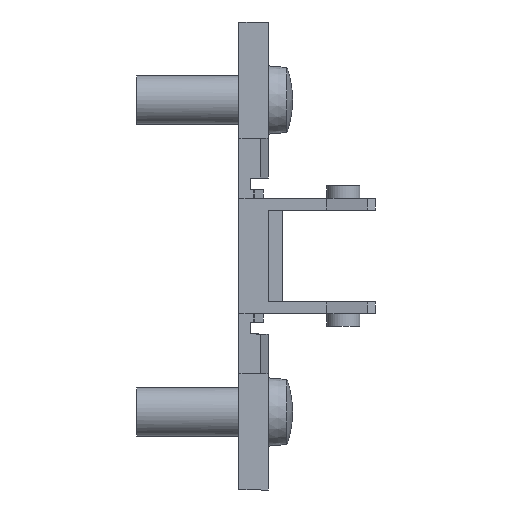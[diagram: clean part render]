
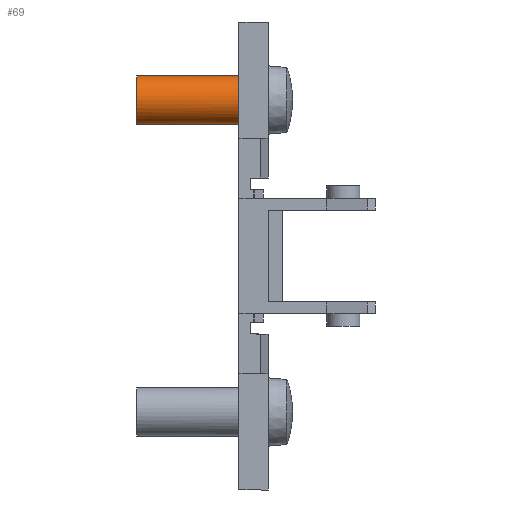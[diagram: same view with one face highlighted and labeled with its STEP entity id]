
A CAD part, front view. The second image highlights one B-rep face of the part: STEP entity #69.
In plain terms, the highlighted cylindrical face has radius 2.5 mm (diameter 5 mm), a partial arc.
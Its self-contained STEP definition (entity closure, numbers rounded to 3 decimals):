
#3 = CARTESIAN_POINT ( 'NONE',  ( -10.5, 0., 18.5 ) ) ;
#69 = ADVANCED_FACE ( 'NONE', ( #3522 ), #3509, .T. ) ;
#328 = CARTESIAN_POINT ( 'NONE',  ( 0., 0., 16. ) ) ;
#330 = DIRECTION ( 'NONE',  ( 1., 0., 0. ) ) ;
#331 = DIRECTION ( 'NONE',  ( 0., 0., -1. ) ) ;
#620 = CARTESIAN_POINT ( 'NONE',  ( 0., 0., 16. ) ) ;
#629 = DIRECTION ( 'NONE',  ( 1., 0., 0. ) ) ;
#630 = DIRECTION ( 'NONE',  ( 0., 0., -1. ) ) ;
#639 = CARTESIAN_POINT ( 'NONE',  ( -10.5, 0., 13.5 ) ) ;
#640 = DIRECTION ( 'NONE',  ( -1., 0., 0. ) ) ;
#648 = CARTESIAN_POINT ( 'NONE',  ( 0., 0., 16. ) ) ;
#650 = DIRECTION ( 'NONE',  ( 1., 0., 0. ) ) ;
#651 = DIRECTION ( 'NONE',  ( 0., 0., -1. ) ) ;
#1027 = VERTEX_POINT ( 'NONE', #1654 ) ;
#1028 = VERTEX_POINT ( 'NONE', #3 ) ;
#1034 = VERTEX_POINT ( 'NONE', #3982 ) ;
#1035 = VERTEX_POINT ( 'NONE', #4009 ) ;
#1058 = VERTEX_POINT ( 'NONE', #4015 ) ;
#1059 = VERTEX_POINT ( 'NONE', #4276 ) ;
#1500 = DIRECTION ( 'NONE',  ( 0., 0., -1. ) ) ;
#1501 = DIRECTION ( 'NONE',  ( -1., 0., 0. ) ) ;
#1502 = CARTESIAN_POINT ( 'NONE',  ( -10.5, 0., 16. ) ) ;
#1654 = CARTESIAN_POINT ( 'NONE',  ( 0., 0., 18.5 ) ) ;
#1670 = EDGE_CURVE ( 'NONE', #1028, #1034, #3598, .T. ) ;
#1689 = EDGE_CURVE ( 'NONE', #1027, #1028, #3620, .T. ) ;
#1781 = AXIS2_PLACEMENT_3D ( 'NONE', #648, #650, #651 ) ;
#1926 = EDGE_CURVE ( 'NONE', #1035, #1059, #3900, .T. ) ;
#2013 = AXIS2_PLACEMENT_3D ( 'NONE', #4284, #4022, #4075 ) ;
#2027 = AXIS2_PLACEMENT_3D ( 'NONE', #620, #629, #630 ) ;
#2106 = AXIS2_PLACEMENT_3D ( 'NONE', #328, #330, #331 ) ;
#2127 = EDGE_CURVE ( 'NONE', #1059, #1058, #2445, .T. ) ;
#2136 = EDGE_CURVE ( 'NONE', #1058, #1034, #2452, .T. ) ;
#2143 = EDGE_CURVE ( 'NONE', #1027, #1035, #2461, .T. ) ;
#2259 = AXIS2_PLACEMENT_3D ( 'NONE', #1502, #1501, #1500 ) ;
#2445 = CIRCLE ( 'NONE', #2027, 2.5 ) ;
#2452 = LINE ( 'NONE', #639, #2453 ) ;
#2453 = VECTOR ( 'NONE', #640, 1000. ) ;
#2461 = CIRCLE ( 'NONE', #1781, 2.5 ) ;
#2662 = ORIENTED_EDGE ( 'NONE', *, *, #2136, .F. ) ;
#2663 = ORIENTED_EDGE ( 'NONE', *, *, #2143, .F. ) ;
#2672 = ORIENTED_EDGE ( 'NONE', *, *, #1926, .F. ) ;
#2678 = ORIENTED_EDGE ( 'NONE', *, *, #1689, .T. ) ;
#2690 = ORIENTED_EDGE ( 'NONE', *, *, #1670, .T. ) ;
#3317 = EDGE_LOOP ( 'NONE', ( #2663, #2678, #2690, #2662, #4495, #2672 ) ) ;
#3509 = CYLINDRICAL_SURFACE ( 'NONE', #2259, 2.5 ) ;
#3522 = FACE_OUTER_BOUND ( 'NONE', #3317, .T. ) ;
#3598 = CIRCLE ( 'NONE', #2013, 2.5 ) ;
#3620 = LINE ( 'NONE', #4059, #3625 ) ;
#3625 = VECTOR ( 'NONE', #4065, 1000. ) ;
#3900 = CIRCLE ( 'NONE', #2106, 2.5 ) ;
#3982 = CARTESIAN_POINT ( 'NONE',  ( -10.5, 0., 13.5 ) ) ;
#4009 = CARTESIAN_POINT ( 'NONE',  ( 0., -2.25, 17.09 ) ) ;
#4015 = CARTESIAN_POINT ( 'NONE',  ( 0., 0., 13.5 ) ) ;
#4022 = DIRECTION ( 'NONE',  ( 1., 0., 0. ) ) ;
#4059 = CARTESIAN_POINT ( 'NONE',  ( -10.5, 0., 18.5 ) ) ;
#4065 = DIRECTION ( 'NONE',  ( -1., 0., 0. ) ) ;
#4075 = DIRECTION ( 'NONE',  ( 0., 0., -1. ) ) ;
#4276 = CARTESIAN_POINT ( 'NONE',  ( 0., -2.25, 14.91 ) ) ;
#4284 = CARTESIAN_POINT ( 'NONE',  ( -10.5, 0., 16. ) ) ;
#4495 = ORIENTED_EDGE ( 'NONE', *, *, #2127, .F. ) ;
